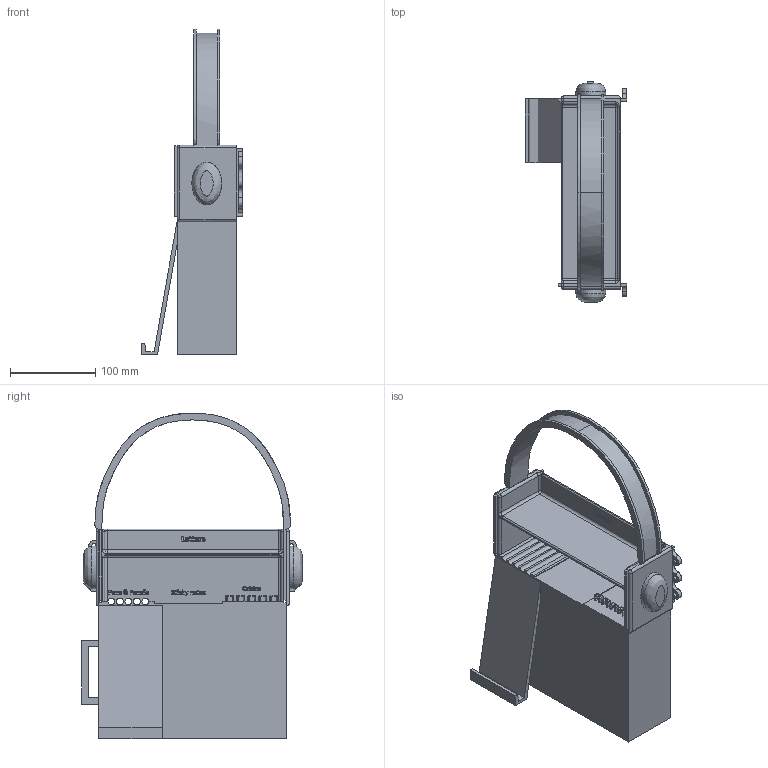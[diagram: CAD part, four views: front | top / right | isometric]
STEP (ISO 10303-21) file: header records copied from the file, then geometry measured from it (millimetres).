
FILE_DESCRIPTION(/* description */ (''),/* implementation_level */ '2;1');
FILE_NAME(/* name */ 'C:/Ats/Fusion 360/Headphone holder with other stuff improved v4PAREM.step',/* time_stamp */ '2020-10-08T20:42:45+03:00',/* author */ (''),/* organization */ (''),/* preprocessor_version */ 'ST-DEVELOPER v18.1',/* originating_system */ 'Autodesk Translation Framework v9.3.0.1241',/* authorisation */ '');
FILE_SCHEMA (('AUTOMOTIVE_DESIGN { 1 0 10303 214 3 1 1 }'));
Products named in the file (5): Headphone holder with other stuff improved; Component1; Component2; Component3; Component4
Assembly tree (4 placements, depth 2):
  Headphone holder with other stuff improved
    Component1
    Component2
    Component3
    Component4
Bounding box: 118.79 x 259.1 x 383.19 mm (x, y, z)
Volume: 937148.7 mm3; surface area: 623983.4 mm2
Topology: 4 solids, 4 shells, 1993 faces, 5660 edges, 3734 vertices
Faces by surface type: bspline 1511, plane 328, cylinder 124, torus 22, sphere 8
Full cylindrical faces by diameter (mm): 5 x6, 8 x5
Entity records: 80532 total; most frequent: CARTESIAN_POINT 38945, ORIENTED_EDGE 11320, EDGE_CURVE 5660, DIRECTION 3832, VERTEX_POINT 3734, B_SPLINE_CURVE_WITH_KNOTS 3041, LINE 2380, VECTOR 2380
